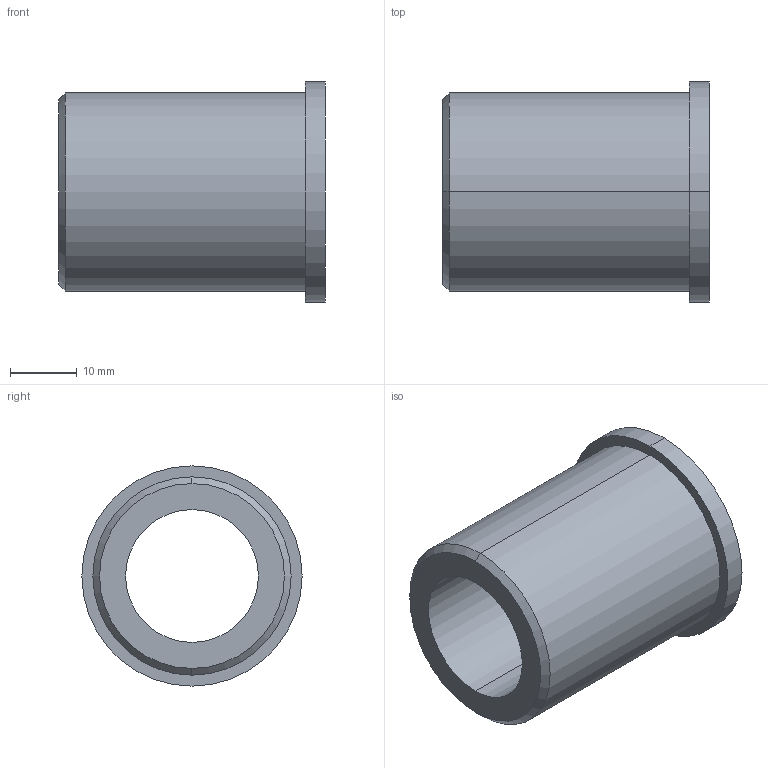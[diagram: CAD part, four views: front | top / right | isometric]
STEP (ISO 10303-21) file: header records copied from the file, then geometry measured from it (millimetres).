
FILE_DESCRIPTION (( 'STEP AP203' ), '1' );
FILE_NAME ('084.802.028.STEP', '2013-01-29T13:42:03', ( 'Alusic' ), ( 'Alusic' ), 'SwSTEP 2.0', 'SolidWorks 2011', '' );
FILE_SCHEMA (( 'CONFIG_CONTROL_DESIGN' ));
Length unit declared in the file: millimetre
Products named in the file (1): 084.802.028
Bounding box: 40 x 33 x 33 mm (x, y, z)
Volume: 15712.6 mm3; surface area: 7296.6 mm2
Topology: 1 solids, 1 shells, 11 faces, 22 edges, 14 vertices
Faces by surface type: cylinder 6, plane 3, cone 2
Entity records: 375 total; most frequent: DIRECTION 60, CARTESIAN_POINT 48, ORIENTED_EDGE 44, AXIS2_PLACEMENT_3D 26, EDGE_CURVE 22, CIRCLE 14, EDGE_LOOP 14, VERTEX_POINT 14
